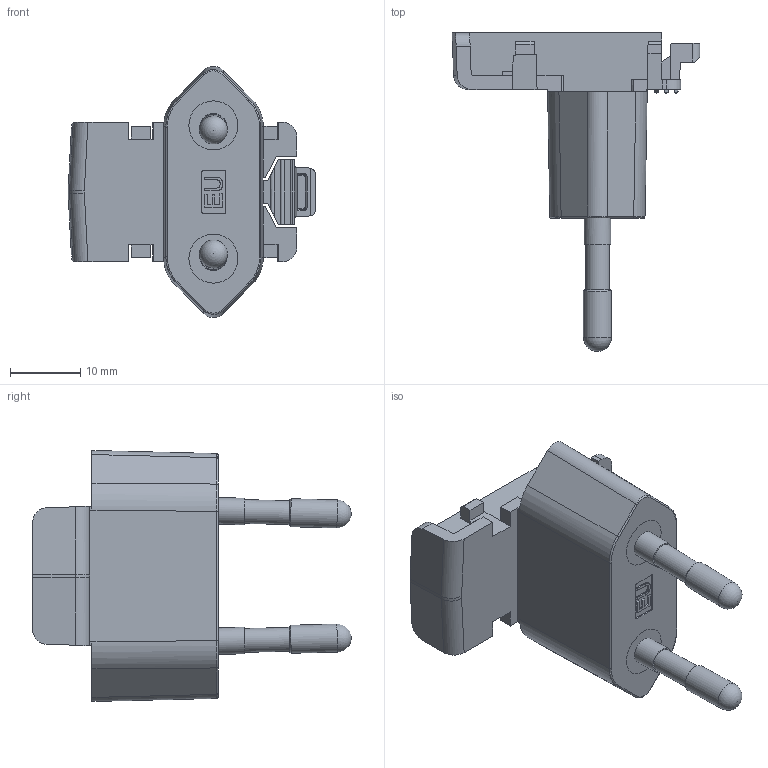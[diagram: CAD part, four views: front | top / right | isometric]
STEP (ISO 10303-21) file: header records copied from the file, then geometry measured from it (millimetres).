
FILE_DESCRIPTION(/* description */ (''),/* implementation_level */ '2;1');
FILE_NAME(/* name */ 'C:\作業區\插頭\5OE0004801H8.stp',/* time_stamp */ '2019-11-06T17:00:38+08:00',/* author */ ('user'),/* organization */ (''),/* preprocessor_version */ 'ST-DEVELOPER v16.1',/* originating_system */ 'Autodesk Inventor 2016',/* authorisation */ '');
FILE_SCHEMA (('AUTOMOTIVE_DESIGN { 1 0 10303 214 3 1 1 }'));
Length unit declared in the file: millimetre
Products named in the file (6): PRT0001_1_1_1_1; PRT0005_1_1_1; PRT0006_1_1_1; ASM0004_ASM_ASM_1_ASM_1_ASM_ASM_ASM; ASM0004_ASM_1_ASM_1_ASM_ASM_1_ASM; 5OE0004801H8
Assembly tree (6 placements, depth 4):
  5OE0004801H8
    ASM0004_ASM_1_ASM_1_ASM_ASM_1_ASM
      PRT0001_1_1_1_1
      ASM0004_ASM_ASM_1_ASM_1_ASM_ASM_ASM
        PRT0005_1_1_1
        PRT0006_1_1_1  x2
Bounding box: 35.34 x 45.44 x 35.81 mm (x, y, z)
Volume: 8076.7 mm3; surface area: 9492.5 mm2
Topology: 4 solids, 4 shells, 698 faces, 1986 edges, 1305 vertices
Faces by surface type: plane 471, cylinder 160, bspline 27, torus 22, cone 12, sphere 6
Full cylindrical faces by diameter (mm): 2 x6, 2.5 x2, 3.4 x2, 3.8 x2, 4 x6, 7 x2
Entity records: 20975 total; most frequent: CARTESIAN_POINT 6363, ORIENTED_EDGE 3124, DIRECTION 2855, EDGE_CURVE 1562, LINE 1225, VECTOR 1225, VERTEX_POINT 1033, AXIS2_PLACEMENT_3D 815
